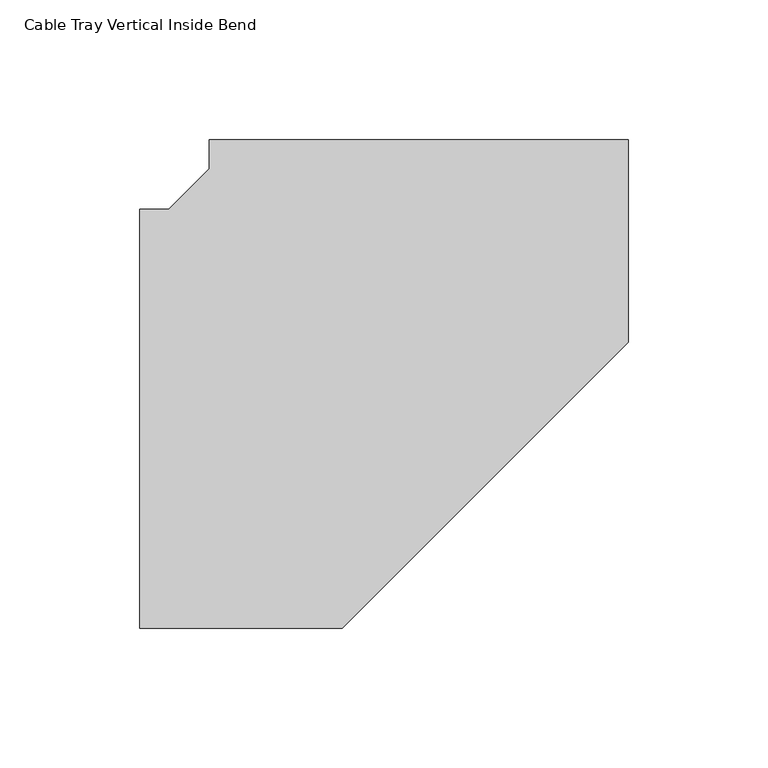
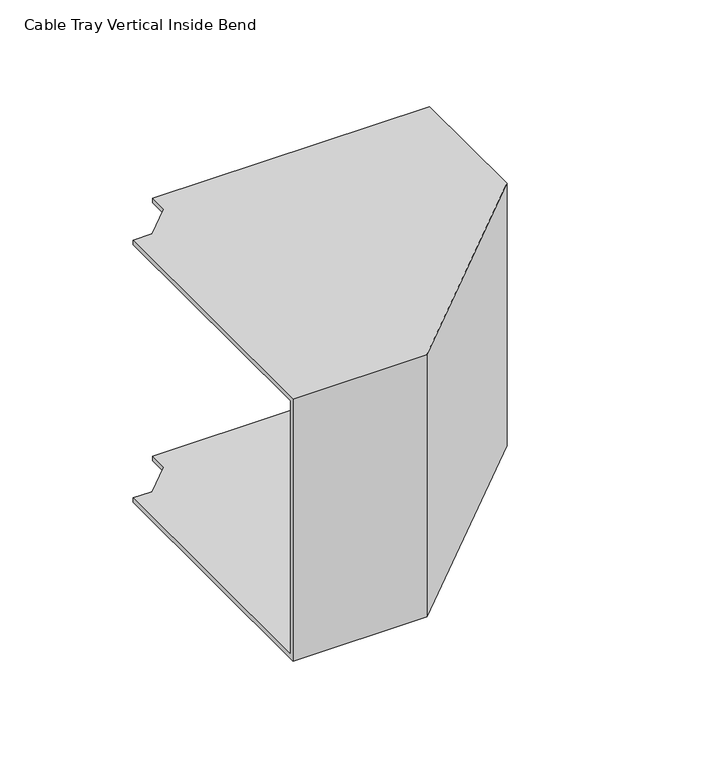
"""IFC4 building model written with IfcOpenShell, lengths in millimetres: cable carrier fitting geometry, Cable Tray Vertical Inside Bend : ELEC_ELV_TKG_N2402."""

from ifc_helpers import new_model, si_unit, origin, place, context, project, spatial, faceted_brep, source, transform, mapped, element, save


def cable_tray_vertical_inside_bend_7db7fc7c(model_context):
    return source(origin(), model_context, "Body", "Brep", [
        faceted_brep([(-100.0, 75.0, 75.0), (-100.0, 75.0, 72.46), (-100.0, -72.46, 72.46), (-100.0, -72.46, -72.46), (-100.0, 75.0, -72.46), (-100.0, 75.0, -75.0), (-100.0, -75.0, -75.0), (-100.0, -75.0, 75.0), (-75.0, 100.0, 75.0), (75.0, 100.0, 75.0), (75.0, 100.0, -75.0), (-75.0, 100.0, -75.0), (-75.0, 100.0, -72.46), (72.46, 100.0, -72.46), (72.46, 100.0, 72.46), (-75.0, 100.0, 72.46), (-89.6446609, 75.0, 75.0), (-89.6446609, 75.0, 72.46), (-75.0, 89.6446609, 72.46), (72.46, 28.564729, 72.46), (-28.564729, -72.46, 72.46), (-28.564729, -72.46, -72.46), (72.46, 28.564729, -72.46), (-75.0, 89.6446609, -72.46), (-89.6446609, 75.0, -72.46), (-89.6446609, 75.0, -75.0), (-75.0, 89.6446609, -75.0), (75.0, 27.5126266, -75.0), (-27.5126266, -75.0, -75.0), (-27.5126266, -75.0, 75.0), (75.0, 27.5126266, 75.0), (-75.0, 89.6446609, 75.0)], [[[0, 1, 2, 3, 4, 5, 6, 7]], [[8, 9, 10, 11, 12, 13, 14, 15]], [[1, 0, 16, 17]], [[2, 1, 17, 18, 15, 14, 19, 20]], [[3, 2, 20, 21]], [[4, 3, 21, 22, 13, 12, 23, 24]], [[5, 4, 24, 25]], [[6, 5, 25, 26, 11, 10, 27, 28]], [[7, 6, 28, 29]], [[0, 7, 29, 30, 9, 8, 31, 16]], [[17, 16, 31, 18]], [[21, 20, 19, 22]], [[25, 24, 23, 26]], [[29, 28, 27, 30]], [[18, 31, 8, 15]], [[22, 19, 14, 13]], [[26, 23, 12, 11]], [[30, 27, 10, 9]]]),
    ])


if __name__ == "__main__":
    model = new_model("IFC4")
    model_context = context("Model", 3, world=origin())
    ifc_project = project(units=[si_unit("LENGTHUNIT", "METRE", prefix="MILLI")], contexts=[model_context])
    site = spatial("IfcSite", under=ifc_project)
    building = spatial("IfcBuilding", under=site)
    placement = place(None, origin())
    cable_tray_vertical_inside_bend_shape = cable_tray_vertical_inside_bend_7db7fc7c(model_context)
    element("IfcCableCarrierFitting", 1, ObjectType="Cable Tray Vertical Inside Bend : ELEC_ELV_TKG_N2402", at=placement, inside=building, context=model_context, shape_type="MappedRepresentation", body=[
        mapped(cable_tray_vertical_inside_bend_shape, transform((0.0, 0.0, 0.0), x_axis=(1.0, 0.0, 0.0), y_axis=(0.0, 1.0, 0.0), z_axis=(0.0, 0.0, 1.0))),
    ])
    save(model, "model.ifc")
